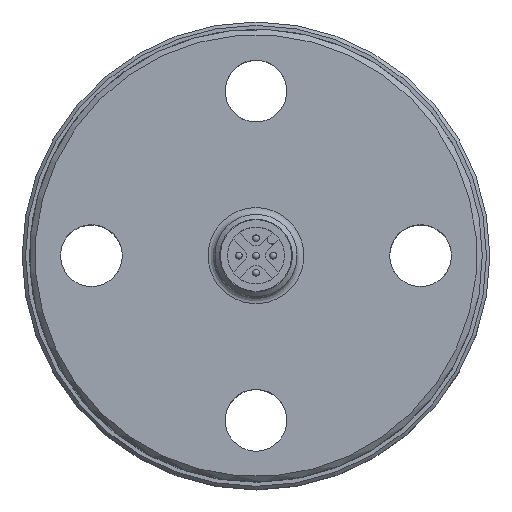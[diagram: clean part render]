
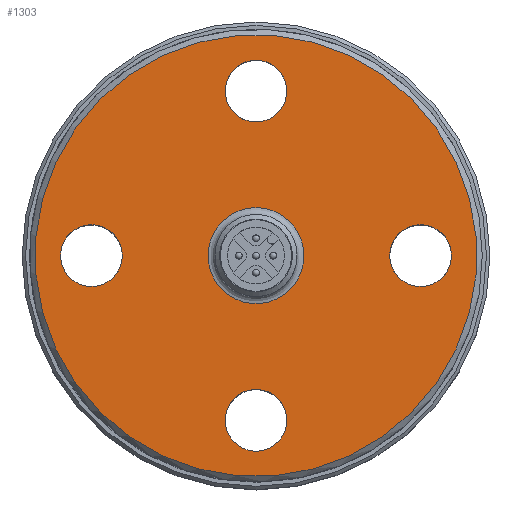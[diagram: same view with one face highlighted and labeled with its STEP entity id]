
A CAD part, top view. The second image highlights one B-rep face of the part: STEP entity #1303.
In plain terms, the highlighted planar face has unit normal (0, 0, 1).
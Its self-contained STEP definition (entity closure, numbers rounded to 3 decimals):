
#1228=CARTESIAN_POINT('',(6.093,37.437,82.701));
#1229=VERTEX_POINT('',#1228);
#1230=CARTESIAN_POINT('',(1.143,42.387,82.701));
#1231=DIRECTION('',(0.,0.,1.0));
#1232=DIRECTION('',(-0.707,0.707,0.));
#1233=AXIS2_PLACEMENT_3D('',#1230,#1231,#1232);
#1234=CIRCLE('',#1233,7.);
#1235=EDGE_CURVE('',#1229,#1229,#1234,.T.);
#1240=CARTESIAN_POINT('',(1.143,42.387,82.701));
#1241=DIRECTION('',(0.0,0.0,1.0));
#1242=DIRECTION('',(0.707,-0.707,0.0));
#1243=AXIS2_PLACEMENT_3D('',#1240,#1241,#1242);
#1244=PLANE('',#1243);
#1245=CARTESIAN_POINT('',(-21.626,65.156,82.701));
#1246=VERTEX_POINT('',#1245);
#1247=CARTESIAN_POINT('',(1.143,42.387,82.701));
#1248=DIRECTION('',(0.,0.,-1.0));
#1249=DIRECTION('',(0.707,-0.707,0.));
#1250=AXIS2_PLACEMENT_3D('',#1247,#1248,#1249);
#1251=CIRCLE('',#1250,32.2);
#1252=EDGE_CURVE('',#1246,#1246,#1251,.T.);
#1253=ORIENTED_EDGE('',*,*,#1252,.F.);
#1254=EDGE_LOOP('',(#1253));
#1255=FACE_OUTER_BOUND('',#1254,.T.);
#1256=CARTESIAN_POINT('',(-19.675,45.569,82.701));
#1257=VERTEX_POINT('',#1256);
#1258=CARTESIAN_POINT('',(-22.857,42.387,82.701));
#1259=DIRECTION('',(0.,0.,-1.0));
#1260=DIRECTION('',(-0.707,-0.707,0.));
#1261=AXIS2_PLACEMENT_3D('',#1258,#1259,#1260);
#1262=CIRCLE('',#1261,4.5);
#1263=EDGE_CURVE('',#1257,#1257,#1262,.T.);
#1264=ORIENTED_EDGE('',*,*,#1263,.T.);
#1265=EDGE_LOOP('',(#1264));
#1266=FACE_BOUND('',#1265,.T.);
#1267=CARTESIAN_POINT('',(-2.039,21.569,82.701));
#1268=VERTEX_POINT('',#1267);
#1269=CARTESIAN_POINT('',(1.143,18.387,82.701));
#1270=DIRECTION('',(0.,0.,-1.));
#1271=DIRECTION('',(0.707,-0.707,0.));
#1272=AXIS2_PLACEMENT_3D('',#1269,#1270,#1271);
#1273=CIRCLE('',#1272,4.5);
#1274=EDGE_CURVE('',#1268,#1268,#1273,.T.);
#1275=ORIENTED_EDGE('',*,*,#1274,.T.);
#1276=EDGE_LOOP('',(#1275));
#1277=FACE_BOUND('',#1276,.T.);
#1278=CARTESIAN_POINT('',(21.961,39.205,82.701));
#1279=VERTEX_POINT('',#1278);
#1280=CARTESIAN_POINT('',(25.143,42.387,82.701));
#1281=DIRECTION('',(0.,0.,-1.0));
#1282=DIRECTION('',(0.707,0.707,0.));
#1283=AXIS2_PLACEMENT_3D('',#1280,#1281,#1282);
#1284=CIRCLE('',#1283,4.5);
#1285=EDGE_CURVE('',#1279,#1279,#1284,.T.);
#1286=ORIENTED_EDGE('',*,*,#1285,.T.);
#1287=EDGE_LOOP('',(#1286));
#1288=FACE_BOUND('',#1287,.T.);
#1289=CARTESIAN_POINT('',(4.325,63.205,82.701));
#1290=VERTEX_POINT('',#1289);
#1291=CARTESIAN_POINT('',(1.143,66.387,82.701));
#1292=DIRECTION('',(0.,0.,-1.0));
#1293=DIRECTION('',(-0.707,0.707,0.));
#1294=AXIS2_PLACEMENT_3D('',#1291,#1292,#1293);
#1295=CIRCLE('',#1294,4.5);
#1296=EDGE_CURVE('',#1290,#1290,#1295,.T.);
#1297=ORIENTED_EDGE('',*,*,#1296,.T.);
#1298=EDGE_LOOP('',(#1297));
#1299=FACE_BOUND('',#1298,.T.);
#1300=ORIENTED_EDGE('',*,*,#1235,.F.);
#1301=EDGE_LOOP('',(#1300));
#1302=FACE_BOUND('',#1301,.T.);
#1303=ADVANCED_FACE('',(#1255,#1266,#1277,#1288,#1299,#1302),#1244,.T.);
